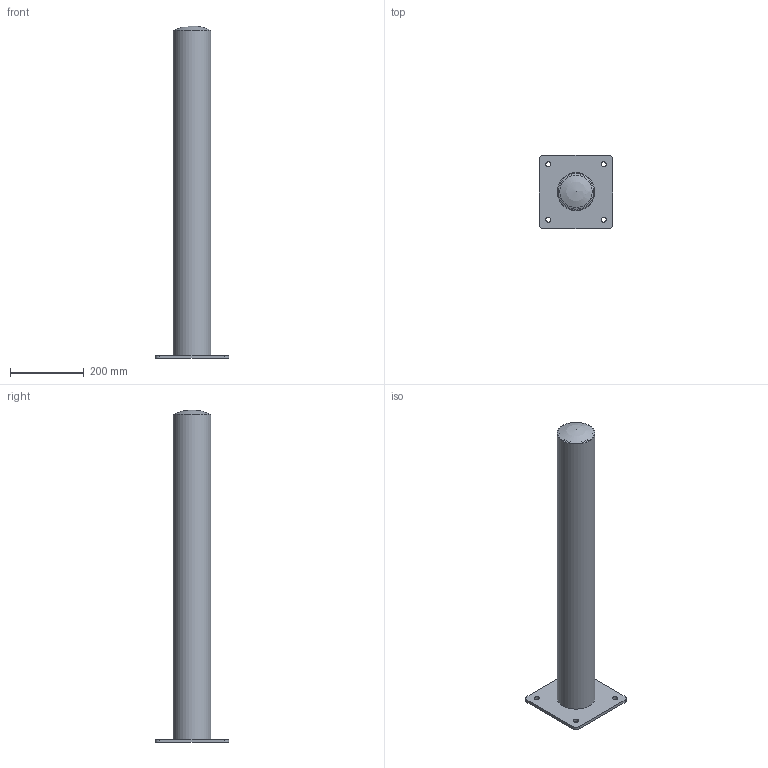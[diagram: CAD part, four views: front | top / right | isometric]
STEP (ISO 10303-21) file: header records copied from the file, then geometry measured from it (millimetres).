
FILE_DESCRIPTION(('FreeCAD Model'),'2;1');
FILE_NAME('Open CASCADE Shape Model','2026-10-04T02:30:12',('FreeCAD'),( 'FreeCAD'),'Open CASCADE STEP processor 7.8','FreeCAD','Unknown');
FILE_SCHEMA(('AUTOMOTIVE_DESIGN { 1 0 10303 214 1 1 1 1 }'));
Length unit declared in the file: millimetre
Products named in the file (1): Open CASCADE STEP translator 7.8 2
Bounding box: 200 x 200 x 900 mm (x, y, z)
Volume: 1157526.1 mm3; surface area: 648738.3 mm2
Topology: 1 solids, 2 shells, 20 faces, 50 edges, 34 vertices
Faces by surface type: cylinder 10, plane 8, sphere 2
Full cylindrical faces by diameter (mm): 14 x4, 96 x1, 102 x1
Entity records: 630 total; most frequent: DIRECTION 116, CARTESIAN_POINT 103, ORIENTED_EDGE 96, EDGE_CURVE 48, AXIS2_PLACEMENT_3D 47, VERTEX_POINT 34, FACE_BOUND 30, EDGE_LOOP 30
